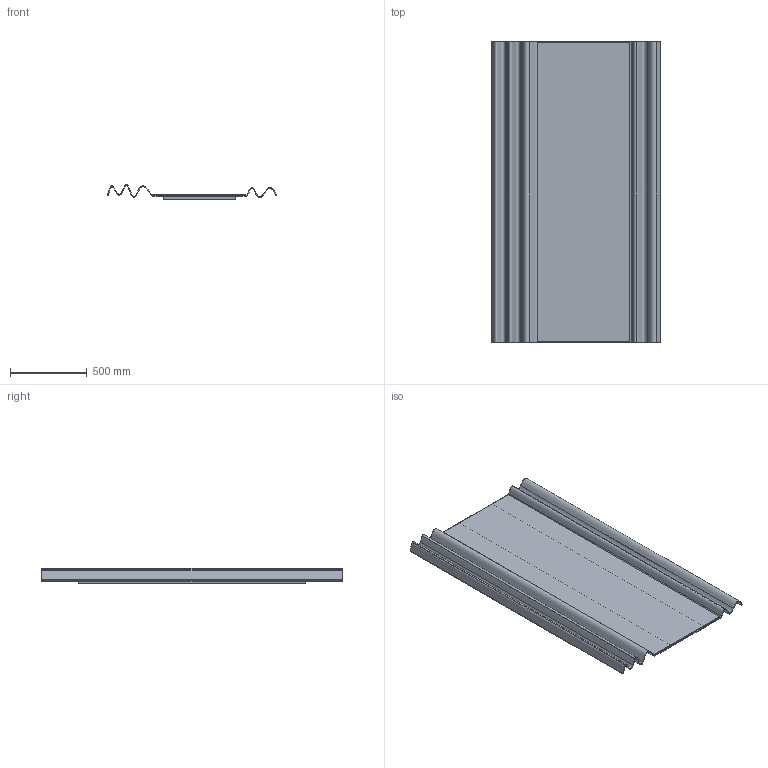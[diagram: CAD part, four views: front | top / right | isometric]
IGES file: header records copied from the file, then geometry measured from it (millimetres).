
Start section: SolidWorks IGES file using analytic representation for surfaces
Global section: file name: Y:\eforma\TECNICO\SOLIDWORKS\E-FORMA\4-SPECCHI\ROLLY\04 istruzioni montaggio\ROL01_Rolli_110x196.IGS; native system: SolidWorks 2022; preprocessor: SolidWorks 2022; author: eforma.tech; date: 240806.094914; units: millimetre
Bounding box: 1099.98 x 1960 x 97.96 mm (x, y, z)
Volume: 20433851.4 mm3; surface area: 8403576.5 mm2
Topology: 4 solids, 4 shells, 88 faces, 245 edges, 163 vertices
Faces by surface type: plane 42, bspline 34, revolution 12
